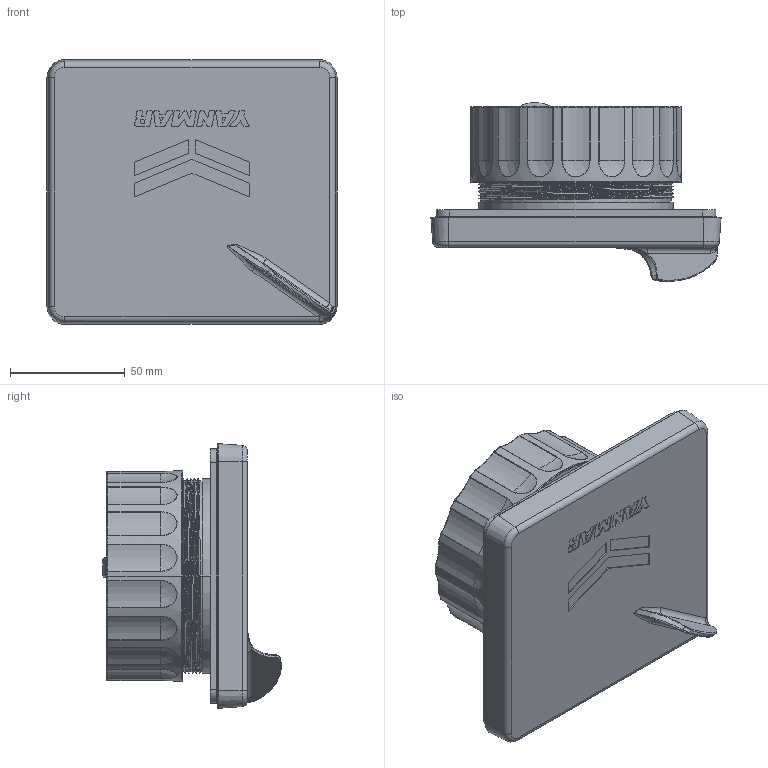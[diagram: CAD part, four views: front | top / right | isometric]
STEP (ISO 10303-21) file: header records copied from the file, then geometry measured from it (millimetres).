
FILE_DESCRIPTION((''),'2;1');
FILE_NAME('164350-51000_ASM','2024-04-22T12:41:28',('IB46307'),(''),'CREO PARAMETRIC BY PTC INC, 2022024','CREO PARAMETRIC BY PTC INC, 2022024','');
FILE_SCHEMA(('CONFIG_CONTROL_DESIGN'));
Products named in the file (6): 164350-51000_BODY; 164350-51000_LOGO; 164350-51000_GASKET; 164350-51000_NUT; 164350-51000_COVER; 164350-51000_ASM
Assembly tree (5 placements, depth 2):
  164350-51000_ASM
    164350-51000_BODY
    164350-51000_LOGO
    164350-51000_GASKET
    164350-51000_NUT
    164350-51000_COVER
Bounding box: 126.57 x 77.94 x 115.47 mm (x, y, z)
Volume: 77626.3 mm3; surface area: 214580.3 mm2
Topology: 20 solids, 64 shells, 6801 faces, 20833 edges, 14276 vertices
Faces by surface type: plane 5381, cylinder 688, torus 180, bspline 170, extrusion 153, cone 135, sphere 94
Entity records: 255393 total; most frequent: CARTESIAN_POINT 70959, ORIENTED_EDGE 38796, DIRECTION 34945, EDGE_CURVE 20737, VECTOR 17727, LINE 17574, VERTEX_POINT 14276, AXIS2_PLACEMENT_3D 8609
